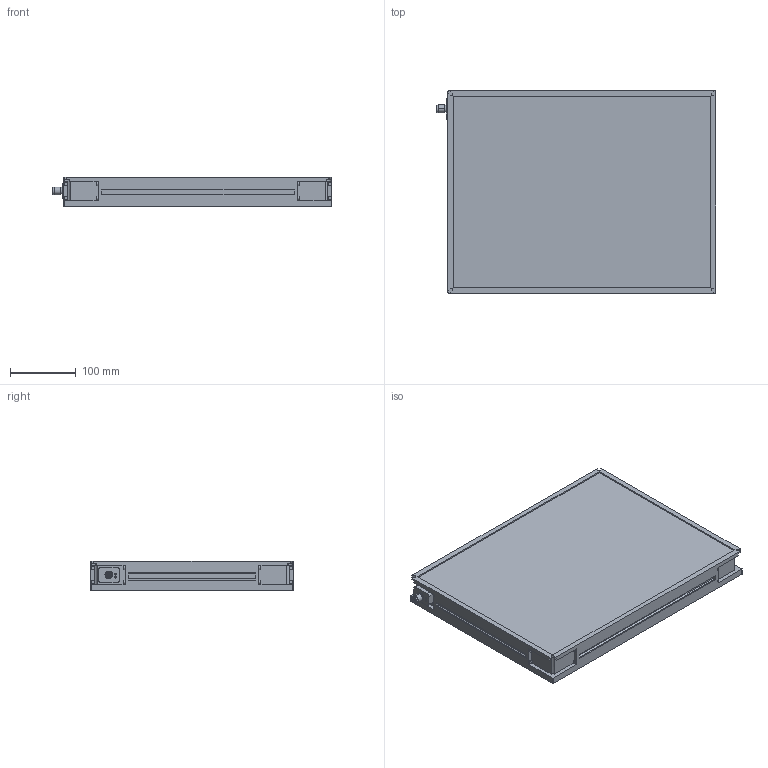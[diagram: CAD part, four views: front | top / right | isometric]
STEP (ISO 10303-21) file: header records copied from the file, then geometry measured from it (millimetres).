
FILE_DESCRIPTION (( 'STEP AP214' ), '1' );
FILE_NAME ('MBACK-xxxx-xxx-M1_CLIENT300x400.STEP', '2022-03-31T16:02:37', ( '' ), ( '' ), 'SwSTEP 2.0', 'SolidWorks 2020', '' );
FILE_SCHEMA (( 'AUTOMOTIVE_DESIGN' ));
Length unit declared in the file: millimetre
Products named in the file (1): MBACK-xxxx-xxx-M1_CLIENT300x400
Bounding box: 425.9 x 308 x 45.5 mm (x, y, z)
Volume: 5175735.5 mm3; surface area: 346189 mm2
Topology: 1 solids, 1 shells, 442 faces, 1144 edges, 760 vertices
Faces by surface type: plane 249, cylinder 105, bspline 80, cone 8
Entity records: 17236 total; most frequent: CARTESIAN_POINT 6699, ORIENTED_EDGE 2288, DIRECTION 1936, EDGE_CURVE 1144, VERTEX_POINT 760, LINE 758, VECTOR 758, AXIS2_PLACEMENT_3D 589
